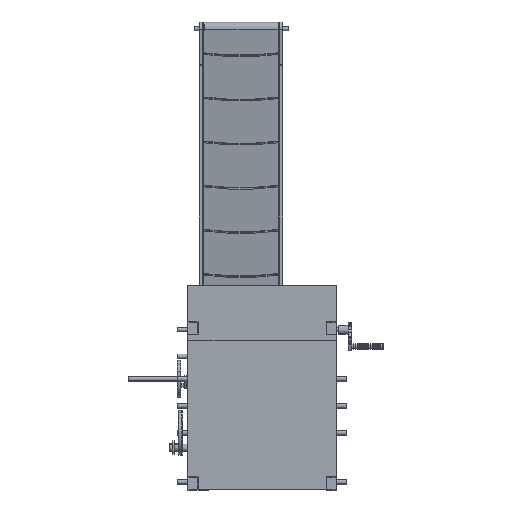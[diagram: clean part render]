
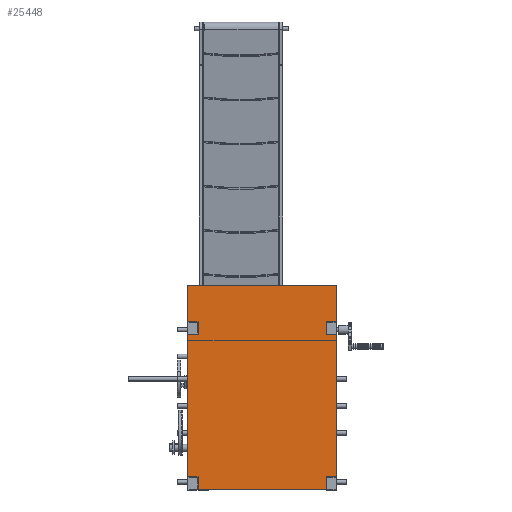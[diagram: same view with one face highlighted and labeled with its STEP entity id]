
A CAD part, front view. The second image highlights one B-rep face of the part: STEP entity #25448.
In plain terms, the highlighted planar face has unit normal (0, -1, 0).
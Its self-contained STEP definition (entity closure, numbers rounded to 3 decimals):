
#8632=PLANE('',#93101);
#14032=LINE('',#138177,#20228);
#14041=LINE('',#138193,#20237);
#14603=LINE('',#146601,#20799);
#14604=LINE('',#146604,#20800);
#14605=LINE('',#146606,#20801);
#14606=LINE('',#146608,#20802);
#14607=LINE('',#146610,#20803);
#14608=LINE('',#146612,#20804);
#14609=LINE('',#146613,#20805);
#14610=LINE('',#146614,#20806);
#14611=LINE('',#146616,#20807);
#14612=LINE('',#146618,#20808);
#14613=LINE('',#146620,#20809);
#14614=LINE('',#146622,#20810);
#14615=LINE('',#146624,#20811);
#14616=LINE('',#146626,#20812);
#20228=VECTOR('',#106989,1.);
#20237=VECTOR('',#107006,1.);
#20799=VECTOR('',#107930,1.);
#20800=VECTOR('',#107931,1.);
#20801=VECTOR('',#107932,1.);
#20802=VECTOR('',#107933,1.);
#20803=VECTOR('',#107934,1.);
#20804=VECTOR('',#107935,1.);
#20805=VECTOR('',#107936,1.);
#20806=VECTOR('',#107937,1.);
#20807=VECTOR('',#107938,1.);
#20808=VECTOR('',#107939,1.);
#20809=VECTOR('',#107940,1.);
#20810=VECTOR('',#107941,1.);
#20811=VECTOR('',#107942,1.);
#20812=VECTOR('',#107943,1.);
#25448=ADVANCED_FACE('',(#29892),#8632,.F.);
#29892=FACE_OUTER_BOUND('',#34495,.T.);
#34495=EDGE_LOOP('',(#48251,#48252,#48253,#48254,#48255,#48256,#48257,#48258,
#48259,#48260,#48261,#48262,#48263,#48264,#48265,#48266));
#48251=ORIENTED_EDGE('',*,*,#78243,.F.);
#48252=ORIENTED_EDGE('',*,*,#78244,.T.);
#48253=ORIENTED_EDGE('',*,*,#78245,.F.);
#48254=ORIENTED_EDGE('',*,*,#78246,.F.);
#48255=ORIENTED_EDGE('',*,*,#78247,.T.);
#48256=ORIENTED_EDGE('',*,*,#78248,.F.);
#48257=ORIENTED_EDGE('',*,*,#77184,.T.);
#48258=ORIENTED_EDGE('',*,*,#78249,.F.);
#48259=ORIENTED_EDGE('',*,*,#77193,.T.);
#48260=ORIENTED_EDGE('',*,*,#78250,.F.);
#48261=ORIENTED_EDGE('',*,*,#78251,.F.);
#48262=ORIENTED_EDGE('',*,*,#78252,.T.);
#48263=ORIENTED_EDGE('',*,*,#78253,.F.);
#48264=ORIENTED_EDGE('',*,*,#78254,.F.);
#48265=ORIENTED_EDGE('',*,*,#78255,.T.);
#48266=ORIENTED_EDGE('',*,*,#78256,.F.);
#66802=VERTEX_POINT('',#138176);
#66803=VERTEX_POINT('',#138178);
#66806=VERTEX_POINT('',#138194);
#66807=VERTEX_POINT('',#138195);
#67815=VERTEX_POINT('',#146602);
#67816=VERTEX_POINT('',#146603);
#67817=VERTEX_POINT('',#146605);
#67818=VERTEX_POINT('',#146607);
#67819=VERTEX_POINT('',#146609);
#67820=VERTEX_POINT('',#146611);
#67821=VERTEX_POINT('',#146615);
#67822=VERTEX_POINT('',#146617);
#67823=VERTEX_POINT('',#146619);
#67824=VERTEX_POINT('',#146621);
#67825=VERTEX_POINT('',#146623);
#67826=VERTEX_POINT('',#146625);
#77184=EDGE_CURVE('',#66803,#66802,#14032,.T.);
#77193=EDGE_CURVE('',#66806,#66807,#14041,.T.);
#78243=EDGE_CURVE('',#67815,#67816,#14603,.T.);
#78244=EDGE_CURVE('',#67815,#67817,#14604,.T.);
#78245=EDGE_CURVE('',#67818,#67817,#14605,.T.);
#78246=EDGE_CURVE('',#67819,#67818,#14606,.T.);
#78247=EDGE_CURVE('',#67819,#67820,#14607,.T.);
#78248=EDGE_CURVE('',#66803,#67820,#14608,.T.);
#78249=EDGE_CURVE('',#66806,#66802,#14609,.T.);
#78250=EDGE_CURVE('',#67821,#66807,#14610,.T.);
#78251=EDGE_CURVE('',#67822,#67821,#14611,.T.);
#78252=EDGE_CURVE('',#67822,#67823,#14612,.T.);
#78253=EDGE_CURVE('',#67824,#67823,#14613,.T.);
#78254=EDGE_CURVE('',#67825,#67824,#14614,.T.);
#78255=EDGE_CURVE('',#67825,#67826,#14615,.T.);
#78256=EDGE_CURVE('',#67816,#67826,#14616,.T.);
#93101=AXIS2_PLACEMENT_3D('',#146627,#107944,#107945);
#106989=DIRECTION('',(-1.,0.,0.));
#107006=DIRECTION('',(1.,0.,0.));
#107930=DIRECTION('',(-1.,0.,0.));
#107931=DIRECTION('',(0.,0.,1.));
#107932=DIRECTION('',(1.,0.,0.));
#107933=DIRECTION('',(0.,0.,-1.));
#107934=DIRECTION('',(1.,0.,0.));
#107935=DIRECTION('',(0.,0.,-1.));
#107936=DIRECTION('',(0.,0.,1.));
#107937=DIRECTION('',(0.,0.,1.));
#107938=DIRECTION('',(1.,0.,0.));
#107939=DIRECTION('',(0.,0.,-1.));
#107940=DIRECTION('',(-1.,0.,0.));
#107941=DIRECTION('',(0.,0.,1.));
#107942=DIRECTION('',(1.,0.,0.));
#107943=DIRECTION('',(0.,0.,-1.));
#107944=DIRECTION('',(0.,1.,0.));
#107945=DIRECTION('',(0.,0.,-1.));
#138176=CARTESIAN_POINT('',(-200.,-5.,322.539));
#138177=CARTESIAN_POINT('',(200.,-5.,322.539));
#138178=CARTESIAN_POINT('',(200.,-5.,322.539));
#138193=CARTESIAN_POINT('',(0.,-5.,225.));
#138194=CARTESIAN_POINT('',(-200.,-5.,225.));
#138195=CARTESIAN_POINT('',(-171.192,-5.,225.));
#146601=CARTESIAN_POINT('',(200.,-5.,-190.044));
#146602=CARTESIAN_POINT('',(200.,-5.,-190.044));
#146603=CARTESIAN_POINT('',(171.192,-5.,-190.044));
#146604=CARTESIAN_POINT('',(200.,-5.,225.));
#146605=CARTESIAN_POINT('',(200.,-5.,190.044));
#146606=CARTESIAN_POINT('',(200.,-5.,190.044));
#146607=CARTESIAN_POINT('',(171.192,-5.,190.044));
#146608=CARTESIAN_POINT('',(171.192,-5.,225.));
#146609=CARTESIAN_POINT('',(171.192,-5.,225.));
#146610=CARTESIAN_POINT('',(0.,-5.,225.));
#146611=CARTESIAN_POINT('',(200.,-5.,225.));
#146612=CARTESIAN_POINT('',(200.,-5.,175.951));
#146613=CARTESIAN_POINT('',(-200.,-5.,175.951));
#146614=CARTESIAN_POINT('',(-171.192,-5.,225.));
#146615=CARTESIAN_POINT('',(-171.192,-5.,190.044));
#146616=CARTESIAN_POINT('',(-200.,-5.,190.044));
#146617=CARTESIAN_POINT('',(-200.,-5.,190.044));
#146618=CARTESIAN_POINT('',(-200.,-5.,225.));
#146619=CARTESIAN_POINT('',(-200.,-5.,-190.044));
#146620=CARTESIAN_POINT('',(-200.,-5.,-190.044));
#146621=CARTESIAN_POINT('',(-171.192,-5.,-190.044));
#146622=CARTESIAN_POINT('',(-171.192,-5.,-225.));
#146623=CARTESIAN_POINT('',(-171.192,-5.,-225.));
#146624=CARTESIAN_POINT('',(-200.,-5.,-225.));
#146625=CARTESIAN_POINT('',(171.192,-5.,-225.));
#146626=CARTESIAN_POINT('',(171.192,-5.,-225.));
#146627=CARTESIAN_POINT('',(-200.,-5.,225.));
